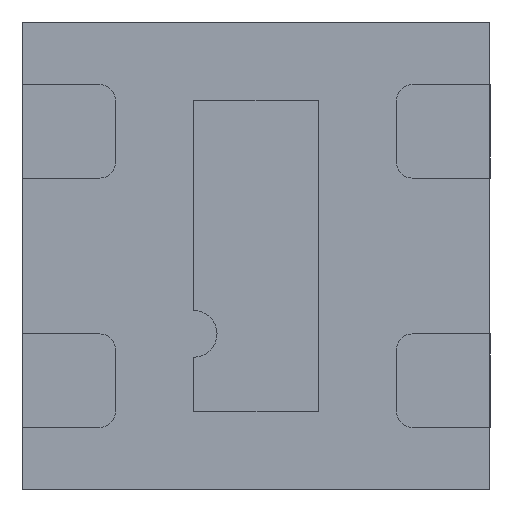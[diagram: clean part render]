
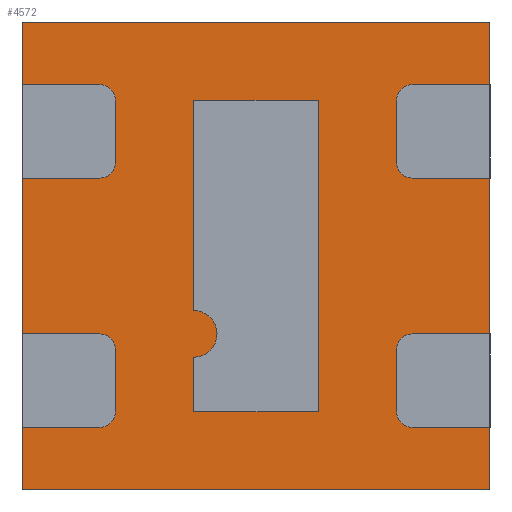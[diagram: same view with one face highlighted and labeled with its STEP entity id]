
A CAD part, front view. The second image highlights one B-rep face of the part: STEP entity #4572.
In plain terms, the highlighted planar face has unit normal (0, -1, 0).
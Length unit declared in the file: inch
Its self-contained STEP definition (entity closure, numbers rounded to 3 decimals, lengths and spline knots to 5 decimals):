
#50 = DIRECTION ( 'NONE',  ( -1., 0., 0. ) ) ;
#290 = CARTESIAN_POINT ( 'NONE',  ( -0.02953, 0., 0.02953 ) ) ;
#439 = CARTESIAN_POINT ( 'NONE',  ( 0., 0., -0.02953 ) ) ;
#553 = LINE ( 'NONE', #439, #6575 ) ;
#580 = LINE ( 'NONE', #1907, #3532 ) ;
#756 = LINE ( 'NONE', #1116, #6247 ) ;
#765 = CARTESIAN_POINT ( 'NONE',  ( -0.02953, 0., -0.02953 ) ) ;
#897 = DIRECTION ( 'NONE',  ( 0., 0., 1. ) ) ;
#915 = EDGE_CURVE ( 'NONE', #3581, #7360, #2243, .T. ) ;
#1116 = CARTESIAN_POINT ( 'NONE',  ( 0.02953, 0., 0. ) ) ;
#1251 = ORIENTED_EDGE ( 'NONE', *, *, #1691, .T. ) ;
#1300 = EDGE_CURVE ( 'NONE', #3901, #2085, #756, .T. ) ;
#1691 = EDGE_CURVE ( 'NONE', #2085, #3581, #580, .T. ) ;
#1907 = CARTESIAN_POINT ( 'NONE',  ( 0., 0., 0.02953 ) ) ;
#1969 = VECTOR ( 'NONE', #7332, 39.37008 ) ;
#2085 = VERTEX_POINT ( 'NONE', #6588 ) ;
#2243 = LINE ( 'NONE', #7411, #1969 ) ;
#2506 = ORIENTED_EDGE ( 'NONE', *, *, #915, .T. ) ;
#2709 = EDGE_LOOP ( 'NONE', ( #1251, #2506, #3231, #6853 ) ) ;
#3075 = CARTESIAN_POINT ( 'NONE',  ( 0., 0., 0. ) ) ;
#3182 = AXIS2_PLACEMENT_3D ( 'NONE', #3075, #7112, #3659 ) ;
#3231 = ORIENTED_EDGE ( 'NONE', *, *, #5326, .T. ) ;
#3532 = VECTOR ( 'NONE', #50, 39.37008 ) ;
#3581 = VERTEX_POINT ( 'NONE', #290 ) ;
#3659 = DIRECTION ( 'NONE',  ( 0., 0., -1. ) ) ;
#3901 = VERTEX_POINT ( 'NONE', #6743 ) ;
#4572 = ADVANCED_FACE ( 'NONE', ( #6794 ), #6496, .T. ) ;
#5326 = EDGE_CURVE ( 'NONE', #7360, #3901, #553, .T. ) ;
#5726 = DIRECTION ( 'NONE',  ( 1., 0., 0. ) ) ;
#6247 = VECTOR ( 'NONE', #897, 39.37008 ) ;
#6496 = PLANE ( 'NONE',  #3182 ) ;
#6575 = VECTOR ( 'NONE', #5726, 39.37008 ) ;
#6588 = CARTESIAN_POINT ( 'NONE',  ( 0.02953, 0., 0.02953 ) ) ;
#6743 = CARTESIAN_POINT ( 'NONE',  ( 0.02953, 0., -0.02953 ) ) ;
#6794 = FACE_OUTER_BOUND ( 'NONE', #2709, .T. ) ;
#6853 = ORIENTED_EDGE ( 'NONE', *, *, #1300, .T. ) ;
#7112 = DIRECTION ( 'NONE',  ( 0., -1., 0. ) ) ;
#7332 = DIRECTION ( 'NONE',  ( 0., 0., -1. ) ) ;
#7360 = VERTEX_POINT ( 'NONE', #765 ) ;
#7411 = CARTESIAN_POINT ( 'NONE',  ( -0.02953, 0., 0. ) ) ;
